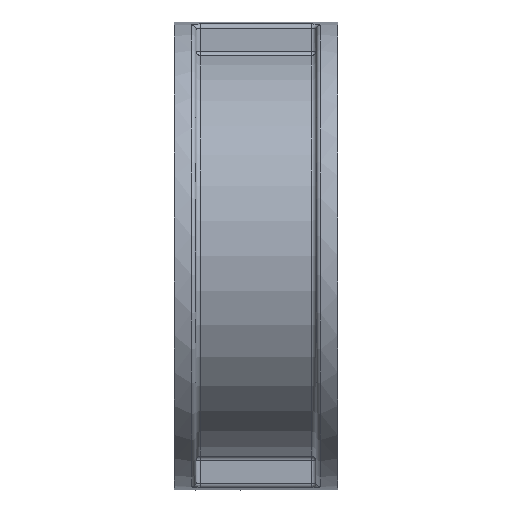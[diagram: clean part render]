
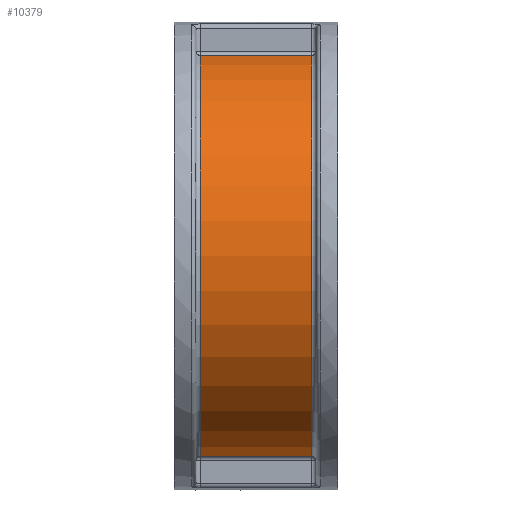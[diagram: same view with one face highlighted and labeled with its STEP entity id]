
A CAD part, top view. The second image highlights one B-rep face of the part: STEP entity #10379.
In plain terms, the highlighted cylindrical face has radius 95 mm (diameter 190 mm), a partial arc.
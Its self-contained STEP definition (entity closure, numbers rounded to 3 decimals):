
#10368 = TOROIDAL_SURFACE('',#10369,97.,2.);
#10369 = AXIS2_PLACEMENT_3D('',#10370,#10371,#10372);
#10370 = CARTESIAN_POINT('',(-19.,45.,0.));
#10371 = DIRECTION('',(1.,0.,0.));
#10372 = DIRECTION('',(0.,-1.,0.));
#10379 = ADVANCED_FACE('',(#10380),#10395,.T.);
#10380 = FACE_BOUND('',#10381,.T.);
#10381 = EDGE_LOOP('',(#10382,#10413,#10441,#10470));
#10382 = ORIENTED_EDGE('',*,*,#10383,.T.);
#10383 = EDGE_CURVE('',#10384,#10386,#10388,.T.);
#10384 = VERTEX_POINT('',#10385);
#10385 = CARTESIAN_POINT('',(-19.,138.35,17.629));
#10386 = VERTEX_POINT('',#10387);
#10387 = CARTESIAN_POINT('',(-19.,-48.35,17.629));
#10388 = SURFACE_CURVE('',#10389,(#10394,#10406),.PCURVE_S1.);
#10389 = CIRCLE('',#10390,95.);
#10390 = AXIS2_PLACEMENT_3D('',#10391,#10392,#10393);
#10391 = CARTESIAN_POINT('',(-19.,45.,0.));
#10392 = DIRECTION('',(1.,0.,0.));
#10393 = DIRECTION('',(0.,-1.,0.));
#10394 = PCURVE('',#10395,#10400);
#10395 = CYLINDRICAL_SURFACE('',#10396,95.);
#10396 = AXIS2_PLACEMENT_3D('',#10397,#10398,#10399);
#10397 = CARTESIAN_POINT('',(-19.502,45.,0.));
#10398 = DIRECTION('',(-1.,0.,0.));
#10399 = DIRECTION('',(0.,1.,0.));
#10400 = DEFINITIONAL_REPRESENTATION('',(#10401),#10405);
#10401 = LINE('',#10402,#10403);
#10402 = CARTESIAN_POINT('',(9.425,-0.502));
#10403 = VECTOR('',#10404,1.);
#10404 = DIRECTION('',(-1.,0.));
#10405 = ( GEOMETRIC_REPRESENTATION_CONTEXT(2) 
PARAMETRIC_REPRESENTATION_CONTEXT() REPRESENTATION_CONTEXT('2D SPACE',''
  ) );
#10406 = PCURVE('',#10368,#10407);
#10407 = DEFINITIONAL_REPRESENTATION('',(#10408),#10412);
#10408 = LINE('',#10409,#10410);
#10409 = CARTESIAN_POINT('',(0.,3.142));
#10410 = VECTOR('',#10411,1.);
#10411 = DIRECTION('',(1.,0.));
#10412 = ( GEOMETRIC_REPRESENTATION_CONTEXT(2) 
PARAMETRIC_REPRESENTATION_CONTEXT() REPRESENTATION_CONTEXT('2D SPACE',''
  ) );
#10413 = ORIENTED_EDGE('',*,*,#10414,.T.);
#10414 = EDGE_CURVE('',#10386,#10415,#10417,.T.);
#10415 = VERTEX_POINT('',#10416);
#10416 = CARTESIAN_POINT('',(33.,-48.35,17.629));
#10417 = SURFACE_CURVE('',#10418,(#10422,#10429),.PCURVE_S1.);
#10418 = LINE('',#10419,#10420);
#10419 = CARTESIAN_POINT('',(-19.502,-48.35,
    17.629));
#10420 = VECTOR('',#10421,1.);
#10421 = DIRECTION('',(1.,0.,0.));
#10422 = PCURVE('',#10395,#10423);
#10423 = DEFINITIONAL_REPRESENTATION('',(#10424),#10428);
#10424 = LINE('',#10425,#10426);
#10425 = CARTESIAN_POINT('',(3.328,0.));
#10426 = VECTOR('',#10427,1.);
#10427 = DIRECTION('',(0.,-1.));
#10428 = ( GEOMETRIC_REPRESENTATION_CONTEXT(2) 
PARAMETRIC_REPRESENTATION_CONTEXT() REPRESENTATION_CONTEXT('2D SPACE',''
  ) );
#10429 = PCURVE('',#10430,#10435);
#10430 = CYLINDRICAL_SURFACE('',#10431,2.);
#10431 = AXIS2_PLACEMENT_3D('',#10432,#10433,#10434);
#10432 = CARTESIAN_POINT('',(-19.502,-50.315,18.));
#10433 = DIRECTION('',(-1.,0.,0.));
#10434 = DIRECTION('',(0.,1.,0.));
#10435 = DEFINITIONAL_REPRESENTATION('',(#10436),#10440);
#10436 = LINE('',#10437,#10438);
#10437 = CARTESIAN_POINT('',(0.187,0.));
#10438 = VECTOR('',#10439,1.);
#10439 = DIRECTION('',(0.,-1.));
#10440 = ( GEOMETRIC_REPRESENTATION_CONTEXT(2) 
PARAMETRIC_REPRESENTATION_CONTEXT() REPRESENTATION_CONTEXT('2D SPACE',''
  ) );
#10441 = ORIENTED_EDGE('',*,*,#10442,.T.);
#10442 = EDGE_CURVE('',#10415,#10443,#10445,.T.);
#10443 = VERTEX_POINT('',#10444);
#10444 = CARTESIAN_POINT('',(33.,138.35,17.629));
#10445 = SURFACE_CURVE('',#10446,(#10451,#10458),.PCURVE_S1.);
#10446 = CIRCLE('',#10447,95.);
#10447 = AXIS2_PLACEMENT_3D('',#10448,#10449,#10450);
#10448 = CARTESIAN_POINT('',(33.,45.,0.));
#10449 = DIRECTION('',(-1.,0.,0.));
#10450 = DIRECTION('',(0.,1.,0.));
#10451 = PCURVE('',#10395,#10452);
#10452 = DEFINITIONAL_REPRESENTATION('',(#10453),#10457);
#10453 = LINE('',#10454,#10455);
#10454 = CARTESIAN_POINT('',(0.,-52.502));
#10455 = VECTOR('',#10456,1.);
#10456 = DIRECTION('',(1.,0.));
#10457 = ( GEOMETRIC_REPRESENTATION_CONTEXT(2) 
PARAMETRIC_REPRESENTATION_CONTEXT() REPRESENTATION_CONTEXT('2D SPACE',''
  ) );
#10458 = PCURVE('',#10459,#10464);
#10459 = TOROIDAL_SURFACE('',#10460,97.,2.);
#10460 = AXIS2_PLACEMENT_3D('',#10461,#10462,#10463);
#10461 = CARTESIAN_POINT('',(33.,45.,0.));
#10462 = DIRECTION('',(-1.,0.,0.));
#10463 = DIRECTION('',(0.,1.,0.));
#10464 = DEFINITIONAL_REPRESENTATION('',(#10465),#10469);
#10465 = LINE('',#10466,#10467);
#10466 = CARTESIAN_POINT('',(0.,3.142));
#10467 = VECTOR('',#10468,1.);
#10468 = DIRECTION('',(1.,0.));
#10469 = ( GEOMETRIC_REPRESENTATION_CONTEXT(2) 
PARAMETRIC_REPRESENTATION_CONTEXT() REPRESENTATION_CONTEXT('2D SPACE',''
  ) );
#10470 = ORIENTED_EDGE('',*,*,#10471,.T.);
#10471 = EDGE_CURVE('',#10443,#10384,#10472,.T.);
#10472 = SURFACE_CURVE('',#10473,(#10477,#10484),.PCURVE_S1.);
#10473 = LINE('',#10474,#10475);
#10474 = CARTESIAN_POINT('',(-19.502,138.35,
    17.629));
#10475 = VECTOR('',#10476,1.);
#10476 = DIRECTION('',(-1.,0.,0.));
#10477 = PCURVE('',#10395,#10478);
#10478 = DEFINITIONAL_REPRESENTATION('',(#10479),#10483);
#10479 = LINE('',#10480,#10481);
#10480 = CARTESIAN_POINT('',(6.097,0.));
#10481 = VECTOR('',#10482,1.);
#10482 = DIRECTION('',(0.,1.));
#10483 = ( GEOMETRIC_REPRESENTATION_CONTEXT(2) 
PARAMETRIC_REPRESENTATION_CONTEXT() REPRESENTATION_CONTEXT('2D SPACE',''
  ) );
#10484 = PCURVE('',#10485,#10490);
#10485 = CYLINDRICAL_SURFACE('',#10486,2.);
#10486 = AXIS2_PLACEMENT_3D('',#10487,#10488,#10489);
#10487 = CARTESIAN_POINT('',(-19.502,140.315,18.));
#10488 = DIRECTION('',(-1.,0.,0.));
#10489 = DIRECTION('',(0.,1.,0.));
#10490 = DEFINITIONAL_REPRESENTATION('',(#10491),#10495);
#10491 = LINE('',#10492,#10493);
#10492 = CARTESIAN_POINT('',(2.955,0.));
#10493 = VECTOR('',#10494,1.);
#10494 = DIRECTION('',(0.,1.));
#10495 = ( GEOMETRIC_REPRESENTATION_CONTEXT(2) 
PARAMETRIC_REPRESENTATION_CONTEXT() REPRESENTATION_CONTEXT('2D SPACE',''
  ) );
